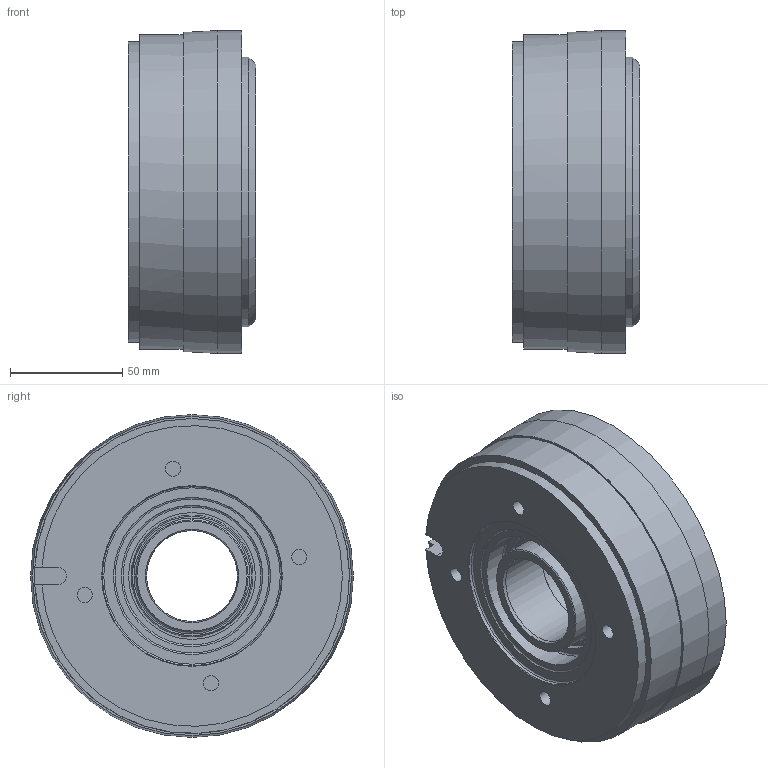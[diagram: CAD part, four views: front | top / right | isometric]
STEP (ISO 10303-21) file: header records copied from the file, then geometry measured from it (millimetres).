
FILE_DESCRIPTION (( 'STEP AP214' ), '1' );
FILE_NAME ('86 61114Pxx_PF-ID 216791_Index -.STEP', '2020-02-07T09:32:46', ( '' ), ( '' ), 'SwSTEP 2.0', 'SolidWorks 2018', '' );
FILE_SCHEMA (( 'AUTOMOTIVE_DESIGN' ));
Length unit declared in the file: millimetre
Products named in the file (1): 86 61114Pxx_PF-ID 216791_Index -
Bounding box: 56.6 x 143.8 x 143.8 mm (x, y, z)
Volume: 724822.9 mm3; surface area: 111415.7 mm2
Topology: 1 solids, 1 shells, 80 faces, 146 edges, 90 vertices
Faces by surface type: cylinder 30, plane 28, cone 12, torus 10
Full cylindrical faces by diameter (mm): 6.8 x4, 8.5 x3, 40.5 x1, 40.7 x1, 50 x2, 54.3 x1, 56.5 x2, 57.1 x1, 63 x1, 66 x1, 70 x1, 75 x1, 80 x1, 108 x1, 120 x1, 135.5 x1, 138 x1, 139.882 x1, 140.3 x1, 141 x1, 143.8 x1
Entity records: 2207 total; most frequent: CARTESIAN_POINT 653, DIRECTION 326, ORIENTED_EDGE 188, EDGE_LOOP 160, AXIS2_PLACEMENT_3D 157, FACE_OUTER_BOUND 118, EDGE_CURVE 94, VERTEX_POINT 88
